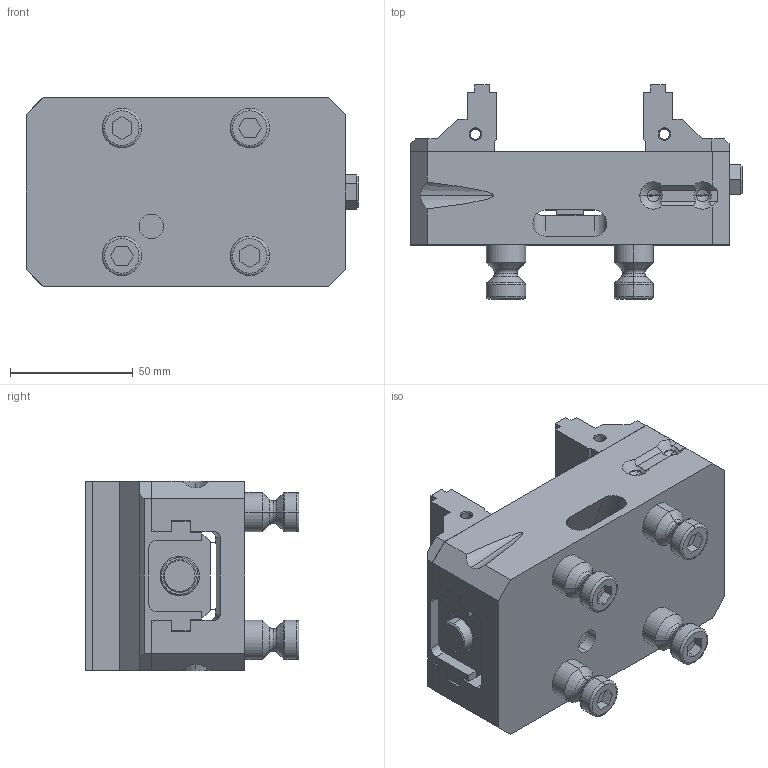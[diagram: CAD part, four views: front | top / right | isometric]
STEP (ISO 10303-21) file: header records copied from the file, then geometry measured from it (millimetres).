
FILE_DESCRIPTION (( 'STEP AP214' ), '1' );
FILE_NAME ('M52S-130.STEP', '2022-05-26T12:29:26', ( '' ), ( '' ), 'SwSTEP 2.0', 'SolidWorks 2018', '' );
FILE_SCHEMA (( 'AUTOMOTIVE_DESIGN' ));
Length unit declared in the file: millimetre
Products named in the file (1): M52S-130
Bounding box: 135 x 87 x 77 mm (x, y, z)
Surface area: 83031.9 mm2 (no closed solid volume)
Topology: 0 solids, 10 shells, 343 faces, 962 edges, 614 vertices
Faces by surface type: plane 197, cylinder 64, cone 50, torus 32
Entity records: 15014 total; most frequent: CARTESIAN_POINT 2471, DIRECTION 1808, ORIENTED_EDGE 1774, EDGE_CURVE 954, VECTOR 684, LINE 684, VERTEX_POINT 614, AXIS2_PLACEMENT_3D 562
